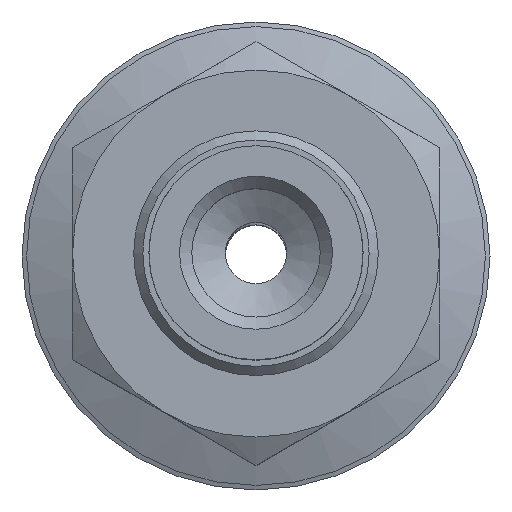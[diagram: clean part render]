
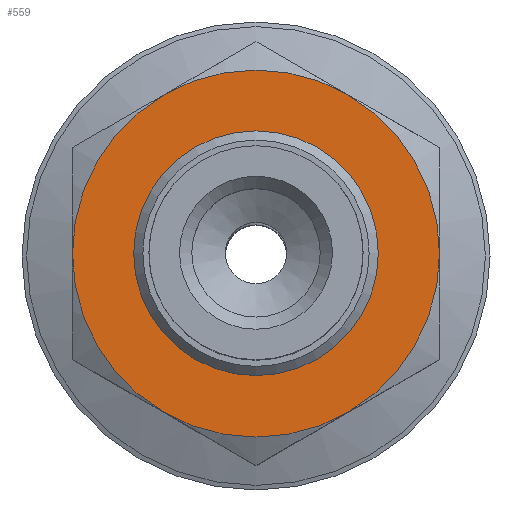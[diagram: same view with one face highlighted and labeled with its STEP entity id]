
A CAD part, top view. The second image highlights one B-rep face of the part: STEP entity #559.
In plain terms, the highlighted planar face has unit normal (0, 0, 1).
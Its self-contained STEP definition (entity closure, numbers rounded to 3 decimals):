
#559=ADVANCED_FACE('',(#822,#823),#824,.T.);
#822=FACE_BOUND('',#1264,.T.);
#823=FACE_OUTER_BOUND('',#1265,.T.);
#824=PLANE('',#1266);
#1264=EDGE_LOOP('',(#1867));
#1265=EDGE_LOOP('',(#1868,#1869,#1870,#1871,#1872,#1873));
#1266=AXIS2_PLACEMENT_3D('',#1874,#1875,#1876);
#1867=ORIENTED_EDGE('',*,*,#2671,.T.);
#1868=ORIENTED_EDGE('',*,*,#2672,.T.);
#1869=ORIENTED_EDGE('',*,*,#2673,.T.);
#1870=ORIENTED_EDGE('',*,*,#2637,.T.);
#1871=ORIENTED_EDGE('',*,*,#2659,.T.);
#1872=ORIENTED_EDGE('',*,*,#2674,.T.);
#1873=ORIENTED_EDGE('',*,*,#2669,.T.);
#1874=CARTESIAN_POINT('',(-6.928,-6.0,3.0));
#1875=DIRECTION('',(0.0,0.0,1.0));
#1876=DIRECTION('',(1.0,0.0,0.0));
#2637=EDGE_CURVE('',#2935,#2926,#2936,.T.);
#2659=EDGE_CURVE('',#2926,#2972,#2974,.T.);
#2669=EDGE_CURVE('',#2950,#2941,#2987,.T.);
#2671=EDGE_CURVE('',#2989,#2989,#2990,.T.);
#2672=EDGE_CURVE('',#2941,#2968,#2991,.T.);
#2673=EDGE_CURVE('',#2968,#2935,#2992,.T.);
#2674=EDGE_CURVE('',#2972,#2950,#2993,.T.);
#2926=VERTEX_POINT('',#3381);
#2935=VERTEX_POINT('',#3403);
#2936=CIRCLE('',#3404,6.0);
#2941=VERTEX_POINT('',#3414);
#2950=VERTEX_POINT('',#3436);
#2968=VERTEX_POINT('',#3480);
#2972=VERTEX_POINT('',#3492);
#2974=CIRCLE('',#3498,6.0);
#2987=CIRCLE('',#3527,6.0);
#2989=VERTEX_POINT('',#3529);
#2990=CIRCLE('',#3530,3.925);
#2991=CIRCLE('',#3531,6.0);
#2992=CIRCLE('',#3532,6.0);
#2993=CIRCLE('',#3533,6.0);
#3381=CARTESIAN_POINT('',(-5.196,3.0,3.0));
#3403=CARTESIAN_POINT('',(0.,6.0,3.0));
#3404=AXIS2_PLACEMENT_3D('',#4086,#4087,#4088);
#3414=CARTESIAN_POINT('',(5.196,-3.0,3.0));
#3436=CARTESIAN_POINT('',(0.,-6.0,3.0));
#3480=CARTESIAN_POINT('',(5.196,3.0,3.0));
#3492=CARTESIAN_POINT('',(-5.196,-3.0,3.0));
#3498=AXIS2_PLACEMENT_3D('',#4099,#4100,#4101);
#3527=AXIS2_PLACEMENT_3D('',#4114,#4115,#4116);
#3529=CARTESIAN_POINT('',(3.925,0.0,3.0));
#3530=AXIS2_PLACEMENT_3D('',#4120,#4121,#4122);
#3531=AXIS2_PLACEMENT_3D('',#4123,#4124,#4125);
#3532=AXIS2_PLACEMENT_3D('',#4126,#4127,#4128);
#3533=AXIS2_PLACEMENT_3D('',#4129,#4130,#4131);
#4086=CARTESIAN_POINT('',(0.,0.0,3.0));
#4087=DIRECTION('',(0.0,0.,1.0));
#4088=DIRECTION('',(0.0,-1.0,0.));
#4099=CARTESIAN_POINT('',(0.,0.0,3.0));
#4100=DIRECTION('',(0.0,0.,1.0));
#4101=DIRECTION('',(0.0,-1.0,0.));
#4114=CARTESIAN_POINT('',(0.,0.0,3.0));
#4115=DIRECTION('',(0.0,0.,1.0));
#4116=DIRECTION('',(0.0,-1.0,0.));
#4120=CARTESIAN_POINT('',(0.0,0.0,3.0));
#4121=DIRECTION('',(0.0,0.0,-1.0));
#4122=DIRECTION('',(1.0,0.0,0.0));
#4123=CARTESIAN_POINT('',(0.,0.0,3.0));
#4124=DIRECTION('',(0.0,0.,1.0));
#4125=DIRECTION('',(0.0,-1.0,0.));
#4126=CARTESIAN_POINT('',(0.,0.0,3.0));
#4127=DIRECTION('',(0.0,0.,1.0));
#4128=DIRECTION('',(0.0,-1.0,0.));
#4129=CARTESIAN_POINT('',(0.,0.0,3.0));
#4130=DIRECTION('',(0.0,0.,1.0));
#4131=DIRECTION('',(0.0,-1.0,0.));
